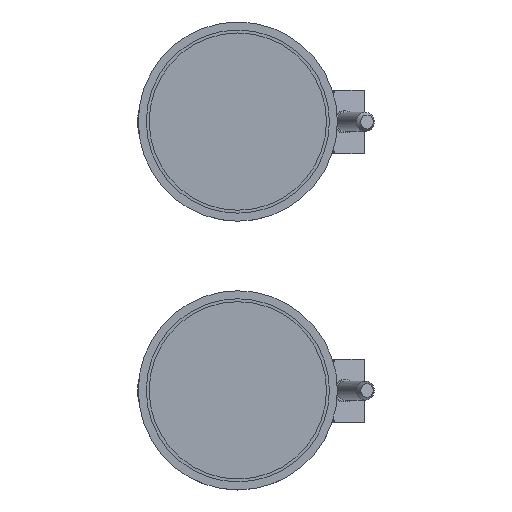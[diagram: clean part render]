
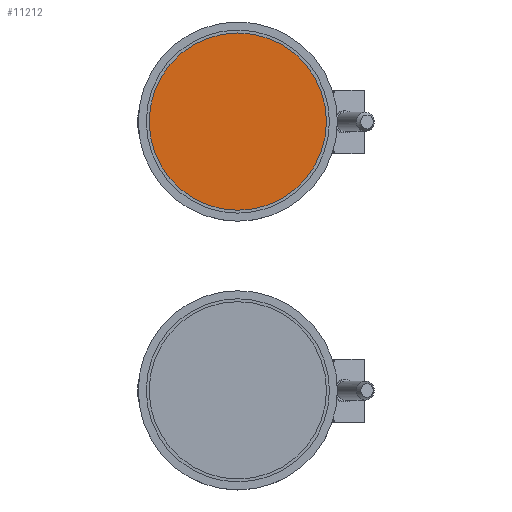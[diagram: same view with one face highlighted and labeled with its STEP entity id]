
A CAD part, top view. The second image highlights one B-rep face of the part: STEP entity #11212.
In plain terms, the highlighted planar face has unit normal (0, 0, 1).
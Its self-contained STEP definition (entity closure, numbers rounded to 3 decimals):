
#558=PLANE('',#12304);
#1128=FACE_OUTER_BOUND('',#1733,.T.);
#1733=EDGE_LOOP('',(#9847));
#2262=CIRCLE('',#12303,28.04);
#5134=VERTEX_POINT('',#20859);
#6710=EDGE_CURVE('',#5134,#5134,#2262,.T.);
#9847=ORIENTED_EDGE('',*,*,#6710,.T.);
#11212=ADVANCED_FACE('',(#1128),#558,.T.);
#12303=AXIS2_PLACEMENT_3D('',#20860,#15305,#15306);
#12304=AXIS2_PLACEMENT_3D('',#20861,#15307,#15308);
#15305=DIRECTION('center_axis',(0.,0.,
1.));
#15306=DIRECTION('ref_axis',(1.,0.,0.));
#15307=DIRECTION('center_axis',(0.,0.,
1.));
#15308=DIRECTION('ref_axis',(0.,-1.,0.));
#20859=CARTESIAN_POINT('',(-28.04,0.,0.));
#20860=CARTESIAN_POINT('Origin',(0.,0.,0.));
#20861=CARTESIAN_POINT('Origin',(0.,0.,0.));
